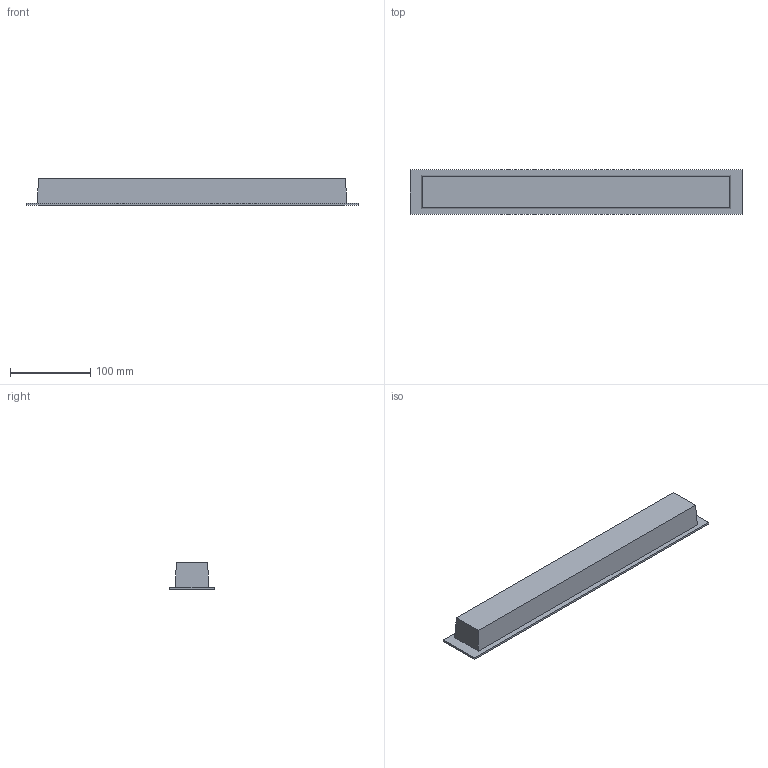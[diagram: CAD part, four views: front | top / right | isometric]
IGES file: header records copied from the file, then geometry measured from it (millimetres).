
Start section: SolidWorks IGES file using analytic representation for surfaces
Global section: file name: X:\PRODUKT\Modele 3D_WWW\_KOLEKCJE WWW\MINI\MIDI-LED-10063-10066\MIDI-LED-10063-10066.IGS; native system: SolidWorks 2021; preprocessor: SolidWorks 2021; author: gabriela.tworek; date: 220606.075408; units: millimetre
Bounding box: 414 x 55 x 32.5 mm (x, y, z)
Surface area: 175693.1 mm2 (no closed solid volume)
Topology: 0 solids, 0 shells, 296 faces, 1142 edges, 1082 vertices
Faces by surface type: bspline 192, revolution 104
